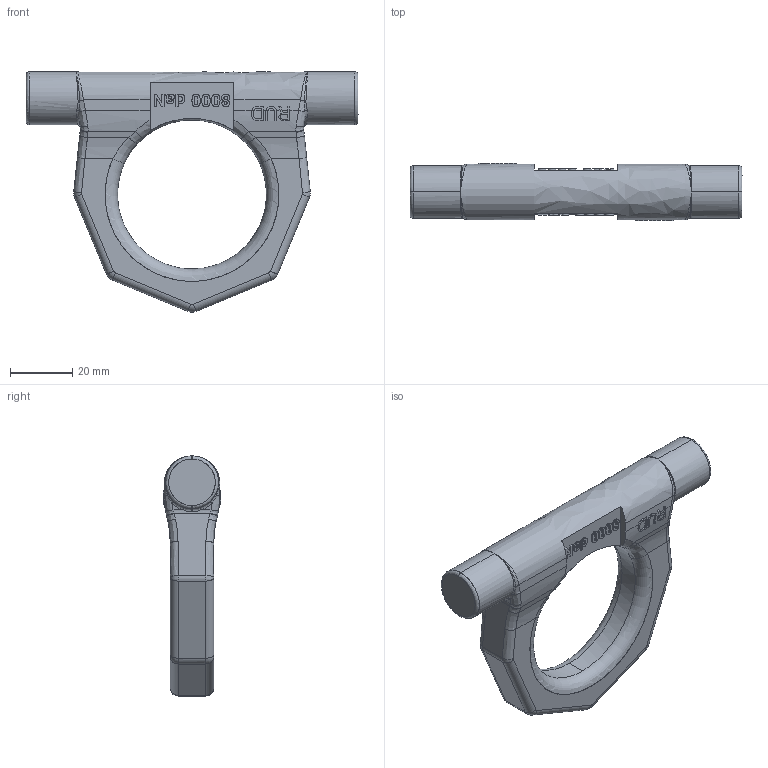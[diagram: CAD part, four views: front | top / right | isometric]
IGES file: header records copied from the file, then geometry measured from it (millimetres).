
Start section:  PTC IGES file: 001-m35322-p-1.igs
Global section: file name: 001-m35322-p-1.igs; native system: Creo Parametric by PTC Inc.; preprocessor: 2022162; author: Lukas.Muehlberger; organization: Unknown; date: 20230807.103121; units: millimetre
Bounding box: 107 x 18.6 x 77.41 mm (x, y, z)
Surface area: 13258.6 mm2 (no closed solid volume)
Topology: 0 solids, 0 shells, 622 faces, 3372 edges, 3372 vertices
Faces by surface type: bspline 332, extrusion 228, revolution 62
